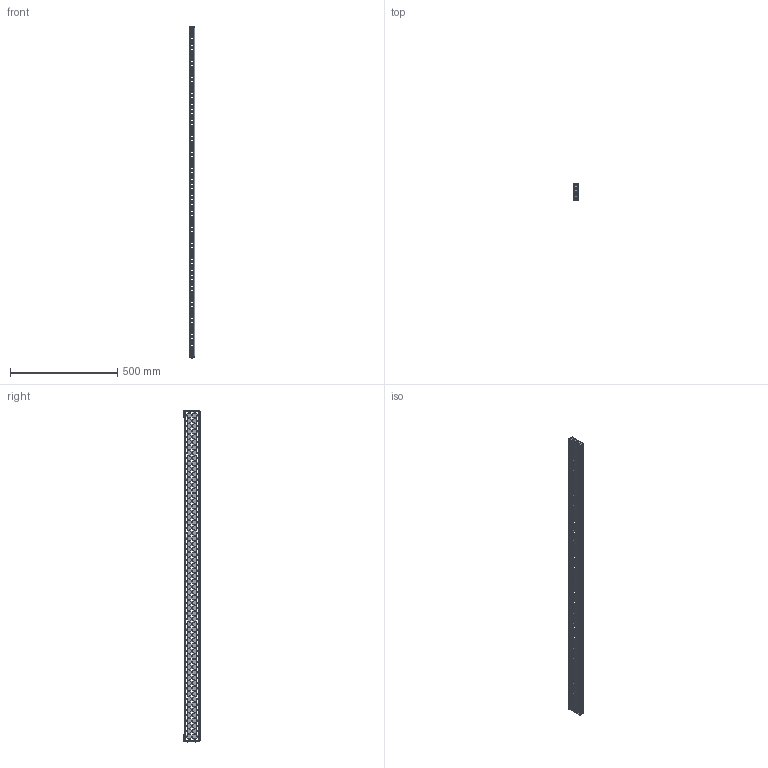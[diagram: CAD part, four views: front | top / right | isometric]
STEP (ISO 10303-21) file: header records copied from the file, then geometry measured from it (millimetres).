
FILE_DESCRIPTION (( 'STEP AP214' ), '1' );
FILE_NAME ('PGH3S17.STEP', '2007-08-31T16:55:58', ( '' ), ( '' ), 'SwSTEP 2.0', 'SolidWorks 2007', '' );
FILE_SCHEMA (( 'AUTOMOTIVE_DESIGN' ));
Products named in the file (3): PGH3S17; brkt_gstrap_3row_35127316; Grid_Strap_3Row_1700
Assembly tree (3 placements, depth 2):
  PGH3S17
    Grid_Strap_3Row_1700
    brkt_gstrap_3row_35127316  x2
Bounding box: 24 x 78 x 1550 mm (x, y, z)
Volume: 282800.4 mm3; surface area: 354352.4 mm2
Topology: 3 solids, 3 shells, 2256 faces, 6722 edges, 4468 vertices
Faces by surface type: plane 1350, cylinder 898, cone 8
Entity records: 76918 total; most frequent: CARTESIAN_POINT 13096, ORIENTED_EDGE 13088, DIRECTION 12712, EDGE_CURVE 6544, LINE 4768, VECTOR 4768, VERTEX_POINT 4356, AXIS2_PLACEMENT_3D 3972
